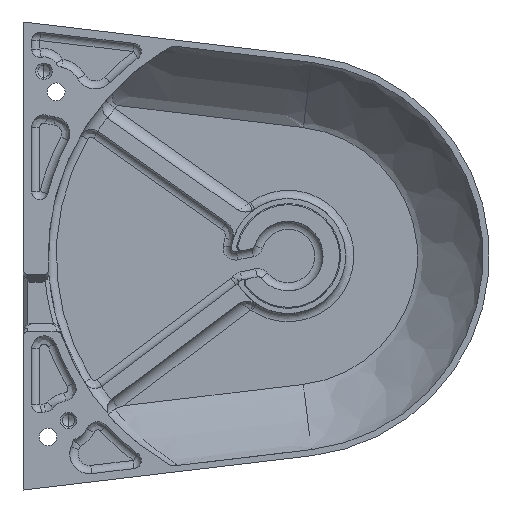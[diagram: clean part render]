
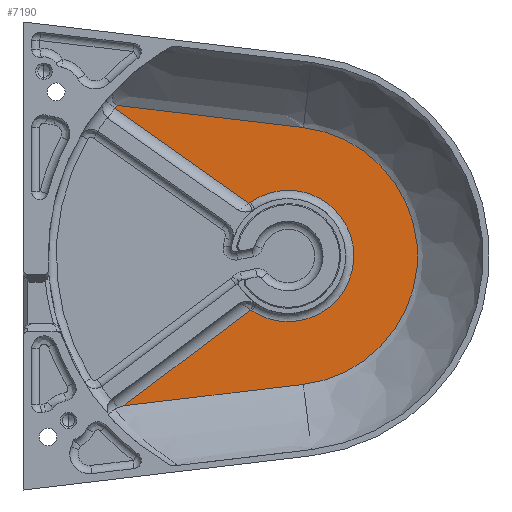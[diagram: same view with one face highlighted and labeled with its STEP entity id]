
A CAD part, front view. The second image highlights one B-rep face of the part: STEP entity #7190.
In plain terms, the highlighted planar face has unit normal (0, -1, 0).
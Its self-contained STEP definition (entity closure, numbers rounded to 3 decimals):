
#2143=CARTESIAN_POINT('',(159.905,53.5,310.02));
#2164=CARTESIAN_POINT('',(200.,53.5,346.5));
#2165=DIRECTION('',(0.,-1.,0.));
#2166=DIRECTION('',(-0.552,0.,-0.834));
#2167=AXIS2_PLACEMENT_3D('',#2164,#2165,#2166);
#2169=CARTESIAN_POINT('',(200.,53.5,346.5));
#2170=DIRECTION('',(0.,-1.,0.));
#2171=DIRECTION('',(0.,0.,-1.));
#2172=AXIS2_PLACEMENT_3D('',#2169,#2170,#2171);
#2174=CARTESIAN_POINT('',(200.,53.5,346.5));
#2175=DIRECTION('',(0.,-1.,0.));
#2176=DIRECTION('',(0.552,0.,0.834));
#2177=AXIS2_PLACEMENT_3D('',#2174,#2175,#2176);
#2179=CARTESIAN_POINT('',(200.,53.5,346.5));
#2180=DIRECTION('',(0.,-1.,0.));
#2181=DIRECTION('',(0.,0.,1.));
#2182=AXIS2_PLACEMENT_3D('',#2179,#2180,#2181);
#2184=CARTESIAN_POINT('',(189.616,53.5,361.203));
#2185=DIRECTION('',(0.,1.,0.));
#2186=DIRECTION('',(0.577,0.,-0.817));
#2187=AXIS2_PLACEMENT_3D('',#2184,#2185,#2186);
#2189=DIRECTION('',(-0.816,0.,0.578));
#2190=VECTOR('',#2189,40.036);
#2191=CARTESIAN_POINT('',(190.452,53.5,359.386));
#2192=LINE('',#2191,#2190);
#2193=CARTESIAN_POINT('',(200.,53.5,346.5));
#2194=DIRECTION('',(0.,1.,0.));
#2195=DIRECTION('',(-0.761,0.,0.649));
#2196=AXIS2_PLACEMENT_3D('',#2193,#2194,#2195);
#2198=DIRECTION('',(0.993,0.,-0.118));
#2199=VECTOR('',#2198,45.695);
#2200=CARTESIAN_POINT('',(158.337,53.5,383.166));
#2201=LINE('',#2200,#2199);
#2202=CARTESIAN_POINT('',(200.,53.501,346.5));
#2203=DIRECTION('',(0.,1.,0.));
#2204=DIRECTION('',(0.118,0.,0.993));
#2205=AXIS2_PLACEMENT_3D('',#2202,#2203,#2204);
#2207=DIRECTION('',(-0.993,0.,-0.118));
#2208=VECTOR('',#2207,44.116);
#2209=CARTESIAN_POINT('',(203.713,53.5,315.22));
#2210=LINE('',#2209,#2208);
#2211=DIRECTION('',(0.799,0.,0.602));
#2212=VECTOR('',#2211,38.738);
#2213=CARTESIAN_POINT('',(159.905,53.5,310.02));
#2214=LINE('',#2213,#2212);
#2215=CARTESIAN_POINT('',(190.059,53.5,331.494));
#2216=DIRECTION('',(0.,1.,0.));
#2217=DIRECTION('',(0.391,0.,0.921));
#2218=AXIS2_PLACEMENT_3D('',#2215,#2216,#2217);
#3186=VERTEX_POINT('',#2143);
#3187=CARTESIAN_POINT('',(203.713,53.5,315.22));
#3188=VERTEX_POINT('',#3187);
#3304=CARTESIAN_POINT('',(190.84,53.5,333.335));
#3305=VERTEX_POINT('',#3304);
#3306=CARTESIAN_POINT('',(191.163,53.5,333.162));
#3307=CARTESIAN_POINT('',(200.,53.5,330.5));
#3308=VERTEX_POINT('',#3306);
#3309=VERTEX_POINT('',#3307);
#3310=CARTESIAN_POINT('',(208.837,53.5,359.838));
#3311=VERTEX_POINT('',#3310);
#3312=CARTESIAN_POINT('',(200.,53.5,362.5));
#3313=VERTEX_POINT('',#3312);
#3314=CARTESIAN_POINT('',(190.77,53.5,359.569));
#3315=VERTEX_POINT('',#3314);
#3316=CARTESIAN_POINT('',(190.452,53.5,359.386));
#3317=VERTEX_POINT('',#3316);
#3318=CARTESIAN_POINT('',(157.776,53.5,382.519));
#3319=VERTEX_POINT('',#3318);
#3320=CARTESIAN_POINT('',(158.337,53.5,383.166));
#3321=VERTEX_POINT('',#3320);
#3322=CARTESIAN_POINT('',(203.713,53.5,377.78));
#3323=VERTEX_POINT('',#3322);
#7161=CARTESIAN_POINT('',(255.5,53.5,346.5));
#7162=DIRECTION('',(0.,1.,0.));
#7163=DIRECTION('',(0.,0.,1.));
#7164=AXIS2_PLACEMENT_3D('',#7161,#7162,#7163);
#7165=PLANE('',#7164);
#7167=ORIENTED_EDGE('',*,*,#7166,.T.);
#7169=ORIENTED_EDGE('',*,*,#7168,.T.);
#7171=ORIENTED_EDGE('',*,*,#7170,.T.);
#7173=ORIENTED_EDGE('',*,*,#7172,.T.);
#7175=ORIENTED_EDGE('',*,*,#7174,.T.);
#7177=ORIENTED_EDGE('',*,*,#7176,.T.);
#7179=ORIENTED_EDGE('',*,*,#7178,.T.);
#7181=ORIENTED_EDGE('',*,*,#7180,.T.);
#7183=ORIENTED_EDGE('',*,*,#7182,.T.);
#7184=ORIENTED_EDGE('',*,*,#6807,.T.);
#7185=ORIENTED_EDGE('',*,*,#7151,.T.);
#7187=ORIENTED_EDGE('',*,*,#7186,.T.);
#7188=EDGE_LOOP('',(#7167,#7169,#7171,#7173,#7175,#7177,#7179,#7181,#7183,#7184,
#7185,#7187));
#7189=FACE_OUTER_BOUND('',#7188,.F.);
#7190=ADVANCED_FACE('',(#7189),#7165,.F.);
#2168=CIRCLE('',#2167,16.);
#2173=CIRCLE('',#2172,16.);
#2178=CIRCLE('',#2177,16.);
#2183=CIRCLE('',#2182,16.);
#2188=CIRCLE('',#2187,2.);
#2197=CIRCLE('',#2196,55.5);
#2206=CIRCLE('',#2205,31.5);
#2219=CIRCLE('',#2218,2.);
#6807=EDGE_CURVE('',#3188,#3186,#2210,.T.);
#7151=EDGE_CURVE('',#3186,#3305,#2214,.T.);
#7166=EDGE_CURVE('',#3308,#3309,#2168,.T.);
#7168=EDGE_CURVE('',#3309,#3311,#2173,.T.);
#7170=EDGE_CURVE('',#3311,#3313,#2178,.T.);
#7172=EDGE_CURVE('',#3313,#3315,#2183,.T.);
#7174=EDGE_CURVE('',#3315,#3317,#2188,.T.);
#7176=EDGE_CURVE('',#3317,#3319,#2192,.T.);
#7178=EDGE_CURVE('',#3319,#3321,#2197,.T.);
#7180=EDGE_CURVE('',#3321,#3323,#2201,.T.);
#7182=EDGE_CURVE('',#3323,#3188,#2206,.T.);
#7186=EDGE_CURVE('',#3305,#3308,#2219,.T.);
